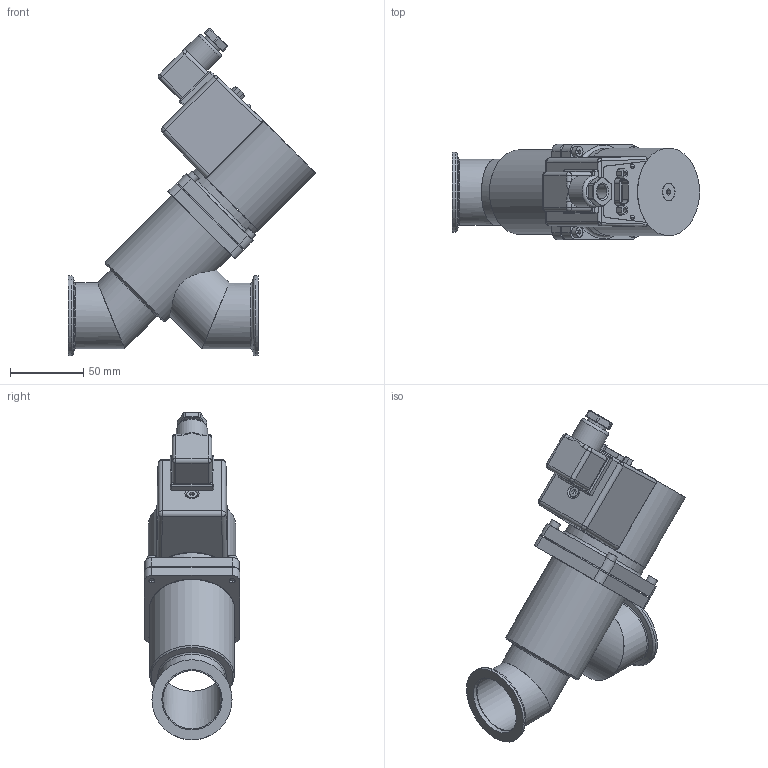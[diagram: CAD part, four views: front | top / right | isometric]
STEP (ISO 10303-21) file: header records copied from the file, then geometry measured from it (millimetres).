
FILE_DESCRIPTION(/* description */ (''),/* implementation_level */ '2;1');
FILE_NAME(/* name */ '1231354003_203.stp',/* time_stamp */ '2013-07-15T12:05:23+02:00',/* author */ (''),/* organization */ (''),/* preprocessor_version */ 'ST-DEVELOPER v11',/* originating_system */ 'SIEMENS PLM Software NX 7.5',/* authorisation */ '');
FILE_SCHEMA (('AP203_CONFIGURATION_CONTROLLED_3D_DESIGN_OF_MECHANICAL_PARTS_AND_ASSEMBLIES_MIM_LF'));
Length unit declared in the file: millimetre
Products named in the file (13): 467856; 467897; 256781.4; 262275.1; 256782.3; 240512.10; 510507; 481131; 510557; 481135; 467857_MODELNX-ARRAGMNTArrangement 1; 256783.9; 526520
Assembly tree (16 placements, depth 3):
  526520
    256783.9
      240512.10
      256782.3
      262275.1  x2
      256781.4
    467857_MODELNX-ARRAGMNTArrangement 1
      467897
      467856
    481135  x4
    510557
    481131
    510507
Bounding box: 169.23 x 65.4 x 224.54 mm (x, y, z)
Volume: 287059.9 mm3; surface area: 175639.4 mm2
Topology: 50 solids, 50 shells, 999 faces, 2376 edges, 1525 vertices
Faces by surface type: plane 522, cylinder 314, cone 67, torus 50, bspline 30, sphere 16
Full cylindrical faces by diameter (mm): 3 x1, 3.26 x5, 3.3 x5, 4 x14, 4.4 x4, 4.96 x1, 5 x1, 6 x2, 7 x5, 9.962 x1, 12 x1, 14 x1, 21.5 x1, 28.1 x1, 28.5 x1, 33 x1, 39.1 x1, 40 x5, 41.3 x2, 41.5 x1, 45 x4, 54 x1, 54.9 x2, 57.9 x1, 58.3 x1, 58.45 x1, 60 x1, 60.9 x1, 62.8 x1
Entity records: 31478 total; most frequent: CARTESIAN_POINT 7718, DIRECTION 4434, ORIENTED_EDGE 4276, EDGE_CURVE 2138, AXIS2_PLACEMENT_3D 1608, VERTEX_POINT 1430, LINE 1218, VECTOR 1218
